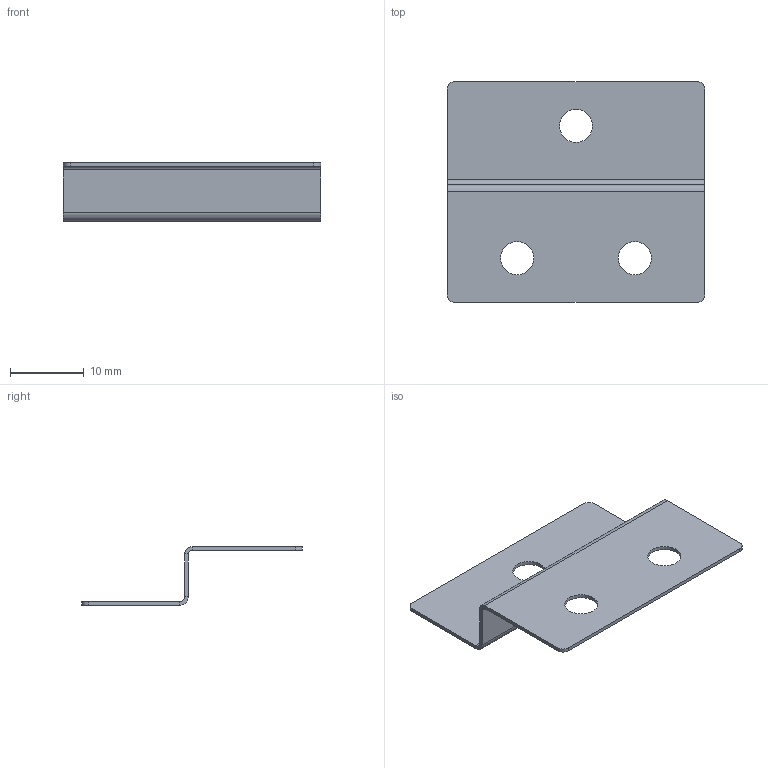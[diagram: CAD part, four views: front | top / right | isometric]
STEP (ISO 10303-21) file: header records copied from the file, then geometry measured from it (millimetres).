
FILE_DESCRIPTION (( 'STEP AP214' ), '1' );
FILE_NAME ('NB_ƒtƒ‰ƒ“ƒW.STEP', '2024-07-19T01:00:12', ( '' ), ( '' ), 'SwSTEP 2.0', 'SolidWorks 2023', '' );
FILE_SCHEMA (( 'AUTOMOTIVE_DESIGN' ));
Length unit declared in the file: millimetre
Products named in the file (1): NB_フランジ
Bounding box: 35 x 30 x 8 mm (x, y, z)
Volume: 618.9 mm3; surface area: 2567.8 mm2
Topology: 1 solids, 1 shells, 32 faces, 74 edges, 44 vertices
Faces by surface type: plane 18, cylinder 14
Entity records: 933 total; most frequent: DIRECTION 168, CARTESIAN_POINT 151, ORIENTED_EDGE 148, EDGE_CURVE 74, AXIS2_PLACEMENT_3D 61, LINE 46, VECTOR 46, VERTEX_POINT 44
